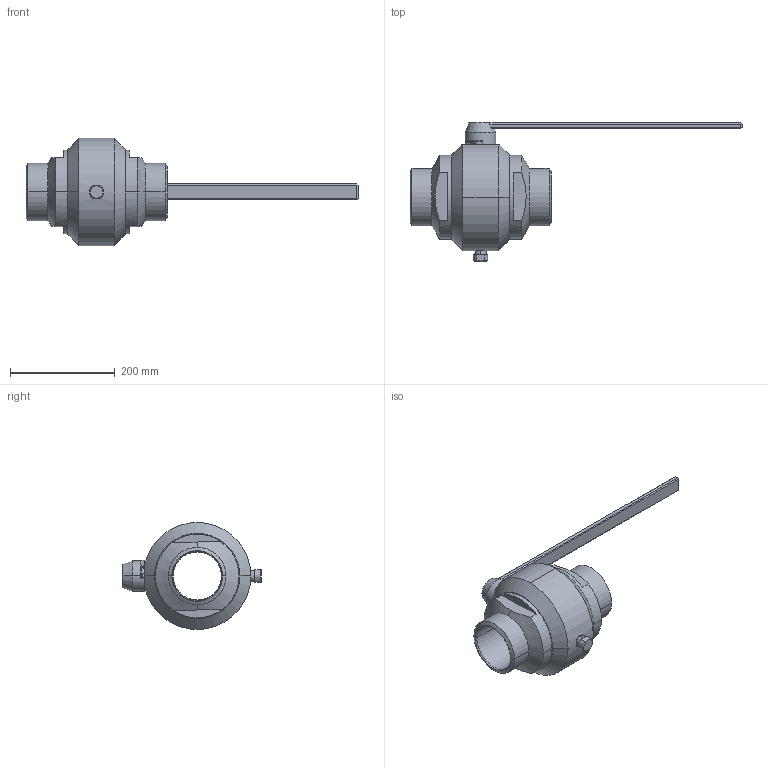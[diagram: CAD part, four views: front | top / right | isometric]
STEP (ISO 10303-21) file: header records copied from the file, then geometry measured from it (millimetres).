
FILE_DESCRIPTION(('STEP AP203'), '1');
FILE_NAME('ZARD 100.040.40.P.stp', '2013-12-09T05:56:39', ('UNSPECIFIED UNSPECIFIED'), ('UNSPECIFIED'), 'ASCON STEP Converter 1.3', 'Kompas 3D', '');
FILE_SCHEMA(('CONFIG_CONTROL_DESIGN','SUPPORT_RESOURCE_SCHEMA'));
Length unit declared in the file: millimetre
Products named in the file (1): 7
Bounding box: 635 x 264 x 205 mm (x, y, z)
Volume: 3336682.6 mm3; surface area: 404017.5 mm2
Topology: 12 solids, 12 shells, 221 faces, 509 edges, 324 vertices
Faces by surface type: plane 97, cylinder 71, cone 53
Entity records: 8798 total; most frequent: CARTESIAN_POINT 3529, DIRECTION 1109, ORIENTED_EDGE 1018, EDGE_CURVE 509, AXIS2_PLACEMENT_3D 442, VERTEX_POINT 324, EDGE_LOOP 249, LINE 225
